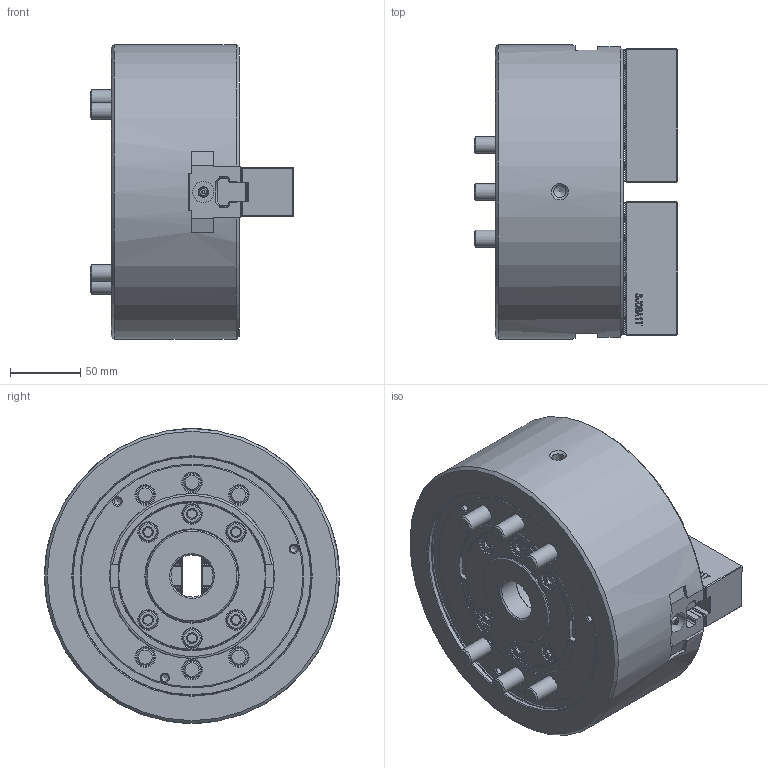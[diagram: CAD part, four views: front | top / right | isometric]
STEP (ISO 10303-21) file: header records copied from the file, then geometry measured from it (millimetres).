
FILE_DESCRIPTION (( 'STEP AP214' ), '1' );
FILE_NAME ('DT1_BT208_OUTSIDE_VIEW_OC.STEP', '2024-05-09T00:41:07', ( '' ), ( '' ), 'SwSTEP 2.0', 'SolidWorks 2022', '' );
FILE_SCHEMA (( 'AUTOMOTIVE_DESIGN' ));
Length unit declared in the file: millimetre
Products named in the file (9): DT1_BT208_OUTSIDE_VIEW_OC; DT1_BT208_M5x10^DT1-BT208_ﾃﾞﾌｫﾙﾄ; DT1_BT208_BASE^DT1-BT208_ﾃﾞﾌｫﾙﾄ; DT1_BT208_DRAWNUT^DT1-BT208_ﾃﾞﾌｫﾙﾄ; DT1_BT208_TNUT^DT1-BT208_ﾃﾞﾌｫﾙﾄ; DT1_BT208_M12x30^DT1-BT208_ﾃﾞﾌｫﾙﾄ; DT1_BT208_SOFTJAW^DT1-BT208_ﾃﾞﾌｫﾙﾄ; DT1_BT208_COVER^DT1-BT208_ﾃﾞﾌｫﾙﾄ; DT1_BT208_M12x90^DT1-BT208_ﾃﾞﾌｫﾙﾄ
Assembly tree (21 placements, depth 2):
  DT1_BT208_OUTSIDE_VIEW_OC
    DT1_BT208_SOFTJAW^DT1-BT208_ﾃﾞﾌｫﾙﾄ  x2
    DT1_BT208_TNUT^DT1-BT208_ﾃﾞﾌｫﾙﾄ  x2
    DT1_BT208_DRAWNUT^DT1-BT208_ﾃﾞﾌｫﾙﾄ
    DT1_BT208_COVER^DT1-BT208_ﾃﾞﾌｫﾙﾄ
    DT1_BT208_BASE^DT1-BT208_ﾃﾞﾌｫﾙﾄ
    DT1_BT208_M5x10^DT1-BT208_ﾃﾞﾌｫﾙﾄ  x4
    DT1_BT208_M12x30^DT1-BT208_ﾃﾞﾌｫﾙﾄ  x4
    DT1_BT208_M12x90^DT1-BT208_ﾃﾞﾌｫﾙﾄ  x6
Bounding box: 145 x 210 x 210 mm (x, y, z)
Volume: 3047429.1 mm3; surface area: 320368.5 mm2
Topology: 21 solids, 21 shells, 3210 faces, 9003 edges, 5946 vertices
Faces by surface type: plane 2121, cylinder 590, bspline 282, cone 192, torus 23, sphere 2
Full cylindrical faces by diameter (mm): 2 x2, 4.2 x4, 5 x7, 5.5 x4, 8.5 x2, 9.5 x4, 10 x4, 10.2 x4, 12 x10, 13 x4, 13.27 x6, 13.5 x6, 14 x6, 15 x2, 18.27 x10, 19 x4, 20 x6, 30 x1, 52 x1, 56 x2, 61 x1, 64.8 x2, 66 x2, 72 x2, 105.2 x1, 117.5 x1, 170 x1, 170.8 x1, 210 x1
Entity records: 81491 total; most frequent: CARTESIAN_POINT 25048, ORIENTED_EDGE 12684, DIRECTION 9774, EDGE_CURVE 6342, LINE 4640, VECTOR 4640, VERTEX_POINT 4281, EDGE_LOOP 2615
